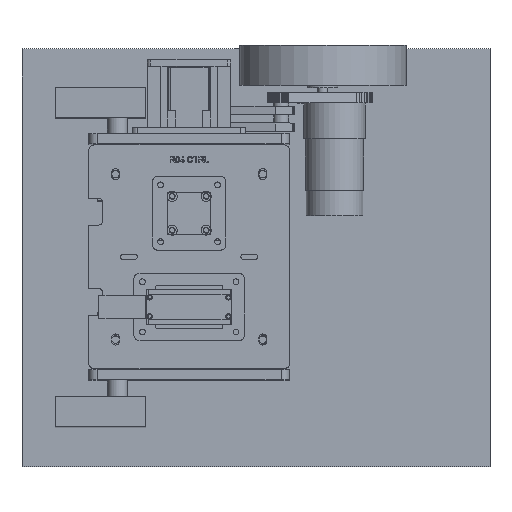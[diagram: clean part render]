
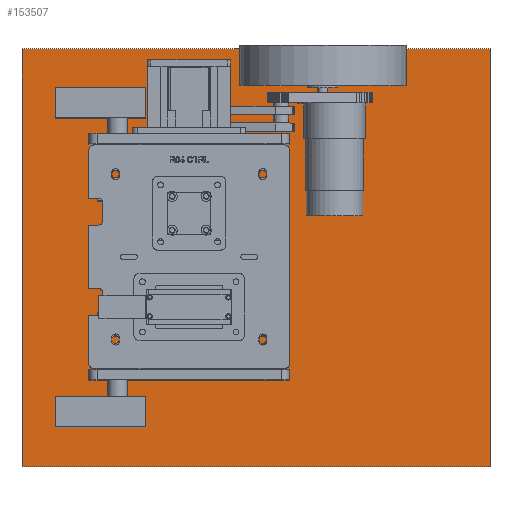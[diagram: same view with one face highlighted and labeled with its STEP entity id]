
A CAD part, top view. The second image highlights one B-rep face of the part: STEP entity #153507.
In plain terms, the highlighted planar face has unit normal (0, 0, 1).
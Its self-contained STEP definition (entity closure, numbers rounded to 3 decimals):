
#153193 = VERTEX_POINT('',#153194);
#153194 = CARTESIAN_POINT('',(-100.,-192.5,-200.));
#153201 = PLANE('',#153202);
#153202 = AXIS2_PLACEMENT_3D('',#153203,#153204,#153205);
#153203 = CARTESIAN_POINT('',(-100.,-192.5,-218.));
#153204 = DIRECTION('',(0.,1.,0.));
#153205 = DIRECTION('',(1.,0.,0.));
#153213 = PLANE('',#153214);
#153214 = AXIS2_PLACEMENT_3D('',#153215,#153216,#153217);
#153215 = CARTESIAN_POINT('',(-100.,57.5,-218.));
#153216 = DIRECTION('',(1.,0.,-0.));
#153217 = DIRECTION('',(0.,-1.,0.));
#153225 = EDGE_CURVE('',#153193,#153226,#153228,.T.);
#153226 = VERTEX_POINT('',#153227);
#153227 = CARTESIAN_POINT('',(180.,-192.5,-200.));
#153228 = SURFACE_CURVE('',#153229,(#153233,#153240),.PCURVE_S1.);
#153229 = LINE('',#153230,#153231);
#153230 = CARTESIAN_POINT('',(-100.,-192.5,-200.));
#153231 = VECTOR('',#153232,1.);
#153232 = DIRECTION('',(1.,0.,0.));
#153233 = PCURVE('',#153201,#153234);
#153234 = DEFINITIONAL_REPRESENTATION('',(#153235),#153239);
#153235 = LINE('',#153236,#153237);
#153236 = CARTESIAN_POINT('',(0.,-18.));
#153237 = VECTOR('',#153238,1.);
#153238 = DIRECTION('',(1.,0.));
#153239 = ( GEOMETRIC_REPRESENTATION_CONTEXT(2) 
PARAMETRIC_REPRESENTATION_CONTEXT() REPRESENTATION_CONTEXT('2D SPACE',''
  ) );
#153240 = PCURVE('',#153241,#153246);
#153241 = PLANE('',#153242);
#153242 = AXIS2_PLACEMENT_3D('',#153243,#153244,#153245);
#153243 = CARTESIAN_POINT('',(40.,-67.5,-200.));
#153244 = DIRECTION('',(0.,0.,1.));
#153245 = DIRECTION('',(1.,0.,-0.));
#153246 = DEFINITIONAL_REPRESENTATION('',(#153247),#153251);
#153247 = LINE('',#153248,#153249);
#153248 = CARTESIAN_POINT('',(-140.,-125.));
#153249 = VECTOR('',#153250,1.);
#153250 = DIRECTION('',(1.,0.));
#153251 = ( GEOMETRIC_REPRESENTATION_CONTEXT(2) 
PARAMETRIC_REPRESENTATION_CONTEXT() REPRESENTATION_CONTEXT('2D SPACE',''
  ) );
#153269 = PLANE('',#153270);
#153270 = AXIS2_PLACEMENT_3D('',#153271,#153272,#153273);
#153271 = CARTESIAN_POINT('',(180.,-192.5,-218.));
#153272 = DIRECTION('',(-1.,0.,0.));
#153273 = DIRECTION('',(0.,1.,0.));
#153311 = EDGE_CURVE('',#153226,#153312,#153314,.T.);
#153312 = VERTEX_POINT('',#153313);
#153313 = CARTESIAN_POINT('',(180.,57.5,-200.));
#153314 = SURFACE_CURVE('',#153315,(#153319,#153326),.PCURVE_S1.);
#153315 = LINE('',#153316,#153317);
#153316 = CARTESIAN_POINT('',(180.,-192.5,-200.));
#153317 = VECTOR('',#153318,1.);
#153318 = DIRECTION('',(0.,1.,0.));
#153319 = PCURVE('',#153269,#153320);
#153320 = DEFINITIONAL_REPRESENTATION('',(#153321),#153325);
#153321 = LINE('',#153322,#153323);
#153322 = CARTESIAN_POINT('',(0.,-18.));
#153323 = VECTOR('',#153324,1.);
#153324 = DIRECTION('',(1.,0.));
#153325 = ( GEOMETRIC_REPRESENTATION_CONTEXT(2) 
PARAMETRIC_REPRESENTATION_CONTEXT() REPRESENTATION_CONTEXT('2D SPACE',''
  ) );
#153326 = PCURVE('',#153241,#153327);
#153327 = DEFINITIONAL_REPRESENTATION('',(#153328),#153332);
#153328 = LINE('',#153329,#153330);
#153329 = CARTESIAN_POINT('',(140.,-125.));
#153330 = VECTOR('',#153331,1.);
#153331 = DIRECTION('',(0.,1.));
#153332 = ( GEOMETRIC_REPRESENTATION_CONTEXT(2) 
PARAMETRIC_REPRESENTATION_CONTEXT() REPRESENTATION_CONTEXT('2D SPACE',''
  ) );
#153350 = PLANE('',#153351);
#153351 = AXIS2_PLACEMENT_3D('',#153352,#153353,#153354);
#153352 = CARTESIAN_POINT('',(180.,57.5,-218.));
#153353 = DIRECTION('',(0.,-1.,0.));
#153354 = DIRECTION('',(-1.,0.,0.));
#153387 = EDGE_CURVE('',#153312,#153388,#153390,.T.);
#153388 = VERTEX_POINT('',#153389);
#153389 = CARTESIAN_POINT('',(-100.,57.5,-200.));
#153390 = SURFACE_CURVE('',#153391,(#153395,#153402),.PCURVE_S1.);
#153391 = LINE('',#153392,#153393);
#153392 = CARTESIAN_POINT('',(180.,57.5,-200.));
#153393 = VECTOR('',#153394,1.);
#153394 = DIRECTION('',(-1.,0.,0.));
#153395 = PCURVE('',#153350,#153396);
#153396 = DEFINITIONAL_REPRESENTATION('',(#153397),#153401);
#153397 = LINE('',#153398,#153399);
#153398 = CARTESIAN_POINT('',(0.,-18.));
#153399 = VECTOR('',#153400,1.);
#153400 = DIRECTION('',(1.,0.));
#153401 = ( GEOMETRIC_REPRESENTATION_CONTEXT(2) 
PARAMETRIC_REPRESENTATION_CONTEXT() REPRESENTATION_CONTEXT('2D SPACE',''
  ) );
#153402 = PCURVE('',#153241,#153403);
#153403 = DEFINITIONAL_REPRESENTATION('',(#153404),#153408);
#153404 = LINE('',#153405,#153406);
#153405 = CARTESIAN_POINT('',(140.,125.));
#153406 = VECTOR('',#153407,1.);
#153407 = DIRECTION('',(-1.,0.));
#153408 = ( GEOMETRIC_REPRESENTATION_CONTEXT(2) 
PARAMETRIC_REPRESENTATION_CONTEXT() REPRESENTATION_CONTEXT('2D SPACE',''
  ) );
#153458 = EDGE_CURVE('',#153388,#153193,#153459,.T.);
#153459 = SURFACE_CURVE('',#153460,(#153464,#153471),.PCURVE_S1.);
#153460 = LINE('',#153461,#153462);
#153461 = CARTESIAN_POINT('',(-100.,57.5,-200.));
#153462 = VECTOR('',#153463,1.);
#153463 = DIRECTION('',(0.,-1.,0.));
#153464 = PCURVE('',#153213,#153465);
#153465 = DEFINITIONAL_REPRESENTATION('',(#153466),#153470);
#153466 = LINE('',#153467,#153468);
#153467 = CARTESIAN_POINT('',(0.,-18.));
#153468 = VECTOR('',#153469,1.);
#153469 = DIRECTION('',(1.,0.));
#153470 = ( GEOMETRIC_REPRESENTATION_CONTEXT(2) 
PARAMETRIC_REPRESENTATION_CONTEXT() REPRESENTATION_CONTEXT('2D SPACE',''
  ) );
#153471 = PCURVE('',#153241,#153472);
#153472 = DEFINITIONAL_REPRESENTATION('',(#153473),#153477);
#153473 = LINE('',#153474,#153475);
#153474 = CARTESIAN_POINT('',(-140.,125.));
#153475 = VECTOR('',#153476,1.);
#153476 = DIRECTION('',(0.,-1.));
#153477 = ( GEOMETRIC_REPRESENTATION_CONTEXT(2) 
PARAMETRIC_REPRESENTATION_CONTEXT() REPRESENTATION_CONTEXT('2D SPACE',''
  ) );
#153507 = ADVANCED_FACE('',(#153508),#153241,.T.);
#153508 = FACE_BOUND('',#153509,.T.);
#153509 = EDGE_LOOP('',(#153510,#153511,#153512,#153513));
#153510 = ORIENTED_EDGE('',*,*,#153225,.T.);
#153511 = ORIENTED_EDGE('',*,*,#153311,.T.);
#153512 = ORIENTED_EDGE('',*,*,#153387,.T.);
#153513 = ORIENTED_EDGE('',*,*,#153458,.T.);
